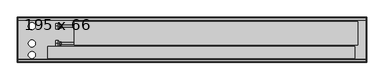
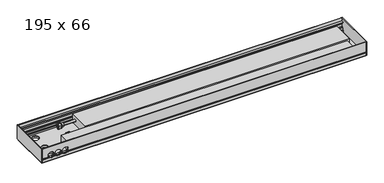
"""IFC4 building model written with IfcOpenShell, lengths in millimetres: proxy geometry, Mohlenhof_Внутрипольный конвектор_QSKM : 195 x 66."""

from ifc_helpers import new_model, si_unit, point, frame, frame_2d, origin, place, context, project, spatial, polyline, circle_curve, ellipse_curve, trimmed, segment, composite_curve, outline, extrude, source, transform, mapped, element, save
from ifc_brep_helpers import plane_surface, cylinder_surface, revolved_surface, advanced_brep


def proxy_195_x_66_d0637520(model_context):
    return source(origin(), model_context, "Body", "SolidModel", [
        extrude(outline(composite_curve([segment(trimmed(circle_curve(frame_2d((0.0, -273.5)), 4.5), [point((-4.5, -273.5))], [point((4.5, -273.5))], False, "CARTESIAN"), True, "CONTINUOUS"), segment(trimmed(circle_curve(frame_2d((0.0, -273.5)), 4.5), [point((4.5, -273.5))], [point((-4.5, -273.5))], False, "CARTESIAN"), True, "CONTINUOUS")], self_intersect=False)), frame((0.0, 0.0, -79.0), z_axis=(0.0, 0.0, 1.0), x_axis=(1.0, 0.0, 0.0)), (0.0, 0.0, 1.0), 7.0),
        extrude(outline(composite_curve([segment(trimmed(circle_curve(frame_2d((0.0, -273.5)), 4.0), [point((-4.0, -273.5))], [point((4.0, -273.5))], False, "CARTESIAN"), True, "CONTINUOUS"), segment(trimmed(circle_curve(frame_2d((0.0, -273.5)), 4.0), [point((4.0, -273.5))], [point((-4.0, -273.5))], False, "CARTESIAN"), True, "CONTINUOUS")], self_intersect=False)), frame((0.0, 0.0, -72.0), z_axis=(0.0, 0.0, 1.0), x_axis=(1.0, 0.0, 0.0)), (0.0, 0.0, 1.0), 1.5),
        extrude(outline(composite_curve([segment(trimmed(circle_curve(frame_2d((0.0, -121.5)), 4.5), [point((-4.5, -121.5))], [point((4.5, -121.5))], False, "CARTESIAN"), True, "CONTINUOUS"), segment(trimmed(circle_curve(frame_2d((0.0, -121.5)), 4.5), [point((4.5, -121.5))], [point((-4.5, -121.5))], False, "CARTESIAN"), True, "CONTINUOUS")], self_intersect=False)), frame((0.0, 0.0, -79.0), z_axis=(0.0, 0.0, 1.0), x_axis=(1.0, 0.0, 0.0)), (0.0, 0.0, 1.0), 7.0),
        extrude(outline(composite_curve([segment(trimmed(circle_curve(frame_2d((0.0, -121.5)), 4.0), [point((-4.0, -121.5))], [point((4.0, -121.5))], False, "CARTESIAN"), True, "CONTINUOUS"), segment(trimmed(circle_curve(frame_2d((0.0, -121.5)), 4.0), [point((4.0, -121.5))], [point((-4.0, -121.5))], False, "CARTESIAN"), True, "CONTINUOUS")], self_intersect=False)), frame((0.0, 0.0, -72.0), z_axis=(0.0, 0.0, 1.0), x_axis=(1.0, 0.0, 0.0)), (0.0, 0.0, 1.0), 1.5),
        advanced_brep(
        [(-574.0, -213.0, -41.0), (-574.0, -201.0, -41.0), (-574.0, -225.0, -41.0), (-561.5, -220.5, -41.0), (-561.5, -205.5, -41.0), (-561.5, -213.0, -41.0), (-569.0, -220.5, -41.0), (-569.0, -205.5, -41.0)],
        [
            (0, 1),
            (1, 2, circle_curve(frame((-574.0, -213.0, -41.0), z_axis=(-1.0, 0.0, 0.0), x_axis=(0.0, 1.0, 0.0)), 12.0)),
            (2, 0),
            (2, 1, circle_curve(frame((-574.0, -213.0, -41.0), z_axis=(-1.0, 0.0, 0.0), x_axis=(0.0, 1.0, 0.0)), 12.0)),
            (3, 4, circle_curve(frame((-561.5, -213.0, -41.0), z_axis=(1.0, 0.0, 0.0), x_axis=(0.0, 1.0, 0.0)), 7.5)),
            (4, 5),
            (5, 3),
            (4, 3, circle_curve(frame((-561.5, -213.0, -41.0), z_axis=(1.0, 0.0, 0.0), x_axis=(0.0, 1.0, 0.0)), 7.5)),
            (6, 7, circle_curve(frame((-569.0, -213.0, -41.0), z_axis=(1.0, 0.0, 0.0), x_axis=(0.0, 1.0, 0.0)), 7.5)),
            (7, 4),
            (3, 6),
            (7, 6, circle_curve(frame((-569.0, -213.0, -41.0), z_axis=(1.0, 0.0, 0.0), x_axis=(0.0, 1.0, 0.0)), 7.5)),
            (1, 7),
            (6, 2),
        ],
        [
            plane_surface(frame((-574.0, -213.0, -41.0), z_axis=(-1.0, 0.0, 0.0), x_axis=(0.0, 1.0, 0.0))),
            plane_surface(frame((-561.5, -213.0, -41.0), z_axis=(1.0, 0.0, 0.0), x_axis=(0.0, 1.0, 0.0))),
            cylinder_surface(frame((-574.0, -213.0, -41.0), z_axis=(-1.0, 0.0, 0.0), x_axis=(0.0, 1.0, 0.0)), 7.5),
            revolved_surface(polyline([(-569.0, -205.5, -41.0), (-574.0, -201.0, -41.0)]), (-574.0, -213.0, -41.0), (-1.0, 0.0, 0.0)),
        ],
        [
            (0, [[1, 2, 3]]),
            (0, [[-3, 4, -1]]),
            (1, [[5, 6, 7]]),
            (1, [[8, -7, -6]]),
            (2, [[9, 10, -5, 11]]),
            (2, [[12, -11, -8, -10]]),
            (3, [[-2, 13, -9, 14]]),
            (3, [[-4, -14, -12, -13]]),
        ],
    ),
        extrude(outline(polyline([(-213.0, -27.1435935), (-201.0, -34.0717968), (-201.0, -47.9282032), (-213.0, -54.8564065), (-225.0, -47.9282032), (-225.0, -34.0717968), (-213.0, -27.1435935)]), holes=[composite_curve([segment(trimmed(circle_curve(frame_2d((-213.0, -41.0)), 8.5), [point((-204.5, -41.0))], [point((-221.5, -41.0))], True, "CARTESIAN"), True, "CONTINUOUS"), segment(trimmed(circle_curve(frame_2d((-213.0, -41.0)), 8.5), [point((-221.5, -41.0))], [point((-204.5, -41.0))], True, "CARTESIAN"), True, "CONTINUOUS")], self_intersect=False)]), frame((-585.0, 0.0, 0.0), z_axis=(1.0, 0.0, 0.0), x_axis=(0.0, 1.0, 0.0)), (0.0, 0.0, 1.0), 11.0),
        advanced_brep(
        [(-574.0, -138.0, -41.0), (-574.0, -126.0, -41.0), (-574.0, -150.0, -41.0), (-561.5, -145.5, -41.0), (-561.5, -130.5, -41.0), (-561.5, -138.0, -41.0), (-569.0, -145.5, -41.0), (-569.0, -130.5, -41.0)],
        [
            (0, 1),
            (1, 2, circle_curve(frame((-574.0, -138.0, -41.0), z_axis=(-1.0, 0.0, 0.0), x_axis=(0.0, 1.0, 0.0)), 12.0)),
            (2, 0),
            (2, 1, circle_curve(frame((-574.0, -138.0, -41.0), z_axis=(-1.0, 0.0, 0.0), x_axis=(0.0, 1.0, 0.0)), 12.0)),
            (3, 4, circle_curve(frame((-561.5, -138.0, -41.0), z_axis=(1.0, 0.0, 0.0), x_axis=(0.0, 1.0, 0.0)), 7.5)),
            (4, 5),
            (5, 3),
            (4, 3, circle_curve(frame((-561.5, -138.0, -41.0), z_axis=(1.0, 0.0, 0.0), x_axis=(0.0, 1.0, 0.0)), 7.5)),
            (6, 7, circle_curve(frame((-569.0, -138.0, -41.0), z_axis=(1.0, 0.0, 0.0), x_axis=(0.0, 1.0, 0.0)), 7.5)),
            (7, 4),
            (3, 6),
            (7, 6, circle_curve(frame((-569.0, -138.0, -41.0), z_axis=(1.0, 0.0, 0.0), x_axis=(0.0, 1.0, 0.0)), 7.5)),
            (1, 7),
            (6, 2),
        ],
        [
            plane_surface(frame((-574.0, -138.0, -41.0), z_axis=(-1.0, 0.0, 0.0), x_axis=(0.0, 1.0, 0.0))),
            plane_surface(frame((-561.5, -138.0, -41.0), z_axis=(1.0, 0.0, 0.0), x_axis=(0.0, 1.0, 0.0))),
            cylinder_surface(frame((-574.0, -138.0, -41.0), z_axis=(-1.0, 0.0, 0.0), x_axis=(0.0, 1.0, 0.0)), 7.5),
            revolved_surface(polyline([(-569.0, -130.5, -41.0), (-574.0, -126.0, -41.0)]), (-574.0, -138.0, -41.0), (-1.0, 0.0, 0.0)),
        ],
        [
            (0, [[1, 2, 3]]),
            (0, [[-3, 4, -1]]),
            (1, [[5, 6, 7]]),
            (1, [[8, -7, -6]]),
            (2, [[9, 10, -5, 11]]),
            (2, [[12, -11, -8, -10]]),
            (3, [[-2, 13, -9, 14]]),
            (3, [[-4, -14, -12, -13]]),
        ],
    ),
        extrude(outline(polyline([(-138.0, -27.1435935), (-126.0, -34.0717968), (-126.0, -47.9282032), (-138.0, -54.8564065), (-150.0, -47.9282032), (-150.0, -34.0717968), (-138.0, -27.1435935)]), holes=[composite_curve([segment(trimmed(circle_curve(frame_2d((-138.0, -41.0)), 8.5), [point((-129.5, -41.0))], [point((-146.5, -41.0))], True, "CARTESIAN"), True, "CONTINUOUS"), segment(trimmed(circle_curve(frame_2d((-138.0, -41.0)), 8.5), [point((-146.5, -41.0))], [point((-129.5, -41.0))], True, "CARTESIAN"), True, "CONTINUOUS")], self_intersect=False)]), frame((-585.0, 0.0, 0.0), z_axis=(1.0, 0.0, 0.0), x_axis=(0.0, 1.0, 0.0)), (0.0, 0.0, 1.0), 11.0),
        extrude(outline(composite_curve([segment(trimmed(circle_curve(frame_2d((-725.0, -273.5)), 4.5), [point((-729.5, -273.5))], [point((-720.5, -273.5))], False, "CARTESIAN"), True, "CONTINUOUS"), segment(trimmed(circle_curve(frame_2d((-725.0, -273.5)), 4.5), [point((-720.5, -273.5))], [point((-729.5, -273.5))], False, "CARTESIAN"), True, "CONTINUOUS")], self_intersect=False)), frame((0.0, 0.0, -79.0), z_axis=(0.0, 0.0, 1.0), x_axis=(1.0, 0.0, 0.0)), (0.0, 0.0, 1.0), 7.0),
        extrude(outline(composite_curve([segment(trimmed(circle_curve(frame_2d((-725.0, -273.5)), 4.0), [point((-729.0, -273.5))], [point((-721.0, -273.5))], False, "CARTESIAN"), True, "CONTINUOUS"), segment(trimmed(circle_curve(frame_2d((-725.0, -273.5)), 4.0), [point((-721.0, -273.5))], [point((-729.0, -273.5))], False, "CARTESIAN"), True, "CONTINUOUS")], self_intersect=False)), frame((0.0, 0.0, -72.0), z_axis=(0.0, 0.0, 1.0), x_axis=(1.0, 0.0, 0.0)), (0.0, 0.0, 1.0), 1.5),
        extrude(outline(composite_curve([segment(trimmed(circle_curve(frame_2d((-725.0, -121.5)), 4.5), [point((-729.5, -121.5))], [point((-720.5, -121.5))], False, "CARTESIAN"), True, "CONTINUOUS"), segment(trimmed(circle_curve(frame_2d((-725.0, -121.5)), 4.5), [point((-720.5, -121.5))], [point((-729.5, -121.5))], False, "CARTESIAN"), True, "CONTINUOUS")], self_intersect=False)), frame((0.0, 0.0, -79.0), z_axis=(0.0, 0.0, 1.0), x_axis=(1.0, 0.0, 0.0)), (0.0, 0.0, 1.0), 7.0),
        extrude(outline(composite_curve([segment(trimmed(circle_curve(frame_2d((-725.0, -121.5)), 4.0), [point((-729.0, -121.5))], [point((-721.0, -121.5))], False, "CARTESIAN"), True, "CONTINUOUS"), segment(trimmed(circle_curve(frame_2d((-725.0, -121.5)), 4.0), [point((-721.0, -121.5))], [point((-729.0, -121.5))], False, "CARTESIAN"), True, "CONTINUOUS")], self_intersect=False)), frame((0.0, 0.0, -72.0), z_axis=(0.0, 0.0, 1.0), x_axis=(1.0, 0.0, 0.0)), (0.0, 0.0, 1.0), 1.5),
        extrude(outline(composite_curve([segment(trimmed(circle_curve(frame_2d((725.0, -273.5)), 4.5), [point((720.5, -273.5))], [point((729.5, -273.5))], False, "CARTESIAN"), True, "CONTINUOUS"), segment(trimmed(circle_curve(frame_2d((725.0, -273.5)), 4.5), [point((729.5, -273.5))], [point((720.5, -273.5))], False, "CARTESIAN"), True, "CONTINUOUS")], self_intersect=False)), frame((0.0, 0.0, -79.0), z_axis=(0.0, 0.0, 1.0), x_axis=(1.0, 0.0, 0.0)), (0.0, 0.0, 1.0), 7.0),
        extrude(outline(composite_curve([segment(trimmed(circle_curve(frame_2d((725.0, -273.5)), 4.0), [point((721.0, -273.5))], [point((729.0, -273.5))], False, "CARTESIAN"), True, "CONTINUOUS"), segment(trimmed(circle_curve(frame_2d((725.0, -273.5)), 4.0), [point((729.0, -273.5))], [point((721.0, -273.5))], False, "CARTESIAN"), True, "CONTINUOUS")], self_intersect=False)), frame((0.0, 0.0, -72.0), z_axis=(0.0, 0.0, 1.0), x_axis=(1.0, 0.0, 0.0)), (0.0, 0.0, 1.0), 1.5),
        extrude(outline(composite_curve([segment(trimmed(circle_curve(frame_2d((725.0, -121.5)), 4.5), [point((720.5, -121.5))], [point((729.5, -121.5))], False, "CARTESIAN"), True, "CONTINUOUS"), segment(trimmed(circle_curve(frame_2d((725.0, -121.5)), 4.5), [point((729.5, -121.5))], [point((720.5, -121.5))], False, "CARTESIAN"), True, "CONTINUOUS")], self_intersect=False)), frame((0.0, 0.0, -79.0), z_axis=(0.0, 0.0, 1.0), x_axis=(1.0, 0.0, 0.0)), (0.0, 0.0, 1.0), 7.0),
        extrude(outline(composite_curve([segment(trimmed(circle_curve(frame_2d((725.0, -121.5)), 4.0), [point((721.0, -121.5))], [point((729.0, -121.5))], False, "CARTESIAN"), True, "CONTINUOUS"), segment(trimmed(circle_curve(frame_2d((725.0, -121.5)), 4.0), [point((729.0, -121.5))], [point((721.0, -121.5))], False, "CARTESIAN"), True, "CONTINUOUS")], self_intersect=False)), frame((0.0, 0.0, -72.0), z_axis=(0.0, 0.0, 1.0), x_axis=(1.0, 0.0, 0.0)), (0.0, 0.0, 1.0), 1.5),
        extrude(outline(polyline([(700.0, -225.87), (700.0, -277.18), (-620.0, -277.18), (-620.0, -225.87), (700.0, -225.87)])), frame((0.0, 0.0, -62.5), z_axis=(0.0, 0.0, 1.0), x_axis=(1.0, 0.0, 0.0)), (0.0, 0.0, 1.0), 43.62),
        extrude(outline(composite_curve([segment(trimmed(circle_curve(frame_2d((-213.0, -41.0)), 5.0), [point((-218.0, -41.0))], [point((-208.0, -41.0))], False, "CARTESIAN"), True, "CONTINUOUS"), segment(trimmed(circle_curve(frame_2d((-213.0, -41.0)), 5.0), [point((-208.0, -41.0))], [point((-218.0, -41.0))], False, "CARTESIAN"), True, "CONTINUOUS")], self_intersect=False)), frame((-585.0, 0.0, 0.0), z_axis=(1.0, 0.0, 0.0), x_axis=(0.0, 1.0, 0.0)), (0.0, 0.0, 1.0), 80.0),
        extrude(outline(composite_curve([segment(trimmed(circle_curve(frame_2d((-138.0, -41.0)), 5.0), [point((-143.0, -41.0))], [point((-133.0, -41.0))], False, "CARTESIAN"), True, "CONTINUOUS"), segment(trimmed(circle_curve(frame_2d((-138.0, -41.0)), 5.0), [point((-133.0, -41.0))], [point((-143.0, -41.0))], False, "CARTESIAN"), True, "CONTINUOUS")], self_intersect=False)), frame((-585.0, 0.0, 0.0), z_axis=(1.0, 0.0, 0.0), x_axis=(0.0, 1.0, 0.0)), (0.0, 0.0, 1.0), 80.0),
        advanced_brep(
        [(748.0, -295.0, -48.5473602), (748.0, -293.5, -49.2468216), (748.0, -292.5, -49.2468216), (748.0, -292.5, -46.0008038), (748.0, -290.0, -46.0008038), (748.0, -290.0, -56.5008038), (748.0, -292.5, -56.5008038), (748.0, -292.5, -53.2468216), (748.0, -293.5, -53.2468216), (748.0, -295.0, -53.9462831), (748.0, -295.0, -66.5), (748.0, -291.0, -66.5), (748.0, -291.0, -65.2), (748.0, -293.0, -65.2), (748.0, -293.0, -62.5), (748.0, -282.0, -62.5), (748.0, -282.0, -54.9172677), (748.0, -283.4172677, -53.5), (748.0, -287.0, -53.5), (748.0, -287.0, -45.91), (748.0, -289.0, -43.91), (748.0, -289.0, -39.5), (748.0, -290.0, -39.5), (748.0, -290.0, -43.5), (748.0, -292.4956439, -43.5), (748.0, -292.4956439, -23.0), (748.0, -290.0, -23.0), (748.0, -290.0, -27.0), (748.0, -289.0, -27.0), (748.0, -289.0, -17.0), (748.0, -283.3956439, -17.0), (748.0, -283.3956439, -15.0), (748.0, -293.4, -15.0), (748.0, -293.4, 0.0), (748.0, -295.0, 0.0), (-748.0, -295.0, -48.5473602), (-748.0, -295.0, 0.0), (-748.0, -293.4, 0.0), (-748.0, -293.4, -15.0), (-748.0, -283.3956439, -15.0), (-748.0, -283.3956439, -17.0), (-748.0, -289.0, -17.0), (-748.0, -289.0, -27.0), (-748.0, -290.0, -27.0), (-748.0, -290.0, -23.0), (-748.0, -292.4956439, -23.0), (-748.0, -292.4956439, -43.5), (-748.0, -290.0, -43.5), (-748.0, -290.0, -39.5), (-748.0, -289.0, -39.5), (-748.0, -289.0, -43.91), (-748.0, -287.0, -45.91), (-748.0, -287.0, -53.5), (-748.0, -283.4172677, -53.5), (-748.0, -282.0, -54.9172677), (-748.0, -282.0, -62.5), (-748.0, -293.0, -62.5), (-748.0, -293.0, -65.2), (-748.0, -291.0, -65.2), (-748.0, -291.0, -66.5), (-748.0, -295.0, -66.5), (-748.0, -295.0, -53.9462831), (-748.0, -293.5, -53.2468216), (-748.0, -292.5, -53.2468216), (-748.0, -292.5, -56.5008038), (-748.0, -290.0, -56.5008038), (-748.0, -290.0, -46.0008038), (-748.0, -292.5, -46.0008038), (-748.0, -292.5, -49.2468216), (-748.0, -293.5, -49.2468216), (-628.7585985, -295.0, -48.5473602), (-629.155283, -293.5, -49.2468216), (-720.844717, -293.5, -49.2468216), (-721.2414015, -295.0, -48.5473602), (-688.2414015, -295.0, -48.5473602), (-694.7585985, -295.0, -48.5473602), (-695.155283, -293.5, -49.2468216), (-687.844717, -293.5, -49.2468216), (-655.2414015, -295.0, -48.5473602), (-661.7585985, -295.0, -48.5473602), (-662.155283, -293.5, -49.2468216), (-654.844717, -293.5, -49.2468216), (-629.155283, -292.5, -49.2468216), (-720.844717, -292.5, -49.2468216), (-695.155283, -292.5, -49.2468216), (-687.844717, -292.5, -49.2468216), (-662.155283, -292.5, -49.2468216), (-654.844717, -292.5, -49.2468216), (-627.6911648, -292.5, -46.0008038), (-722.3088352, -292.5, -46.0008038), (-693.6911648, -292.5, -46.0008038), (-689.3088352, -292.5, -46.0008038), (-660.6911648, -292.5, -46.0008038), (-656.3088352, -292.5, -46.0008038), (-627.6911648, -290.0, -46.0008038), (-722.3088352, -290.0, -46.0008038), (-693.6911648, -290.0, -46.0008038), (-689.3088352, -290.0, -46.0008038), (-660.6911648, -290.0, -46.0008038), (-656.3088352, -290.0, -46.0008038), (-717.328032, -292.5, -53.2468216), (-698.671968, -292.5, -53.2468216), (-684.328032, -292.5, -53.2468216), (-665.671968, -292.5, -53.2468216), (-651.328032, -292.5, -53.2468216), (-632.671968, -292.5, -53.2468216), (-632.671968, -293.5, -53.2468216), (-717.328032, -293.5, -53.2468216), (-698.671968, -293.5, -53.2468216), (-684.328032, -293.5, -53.2468216), (-665.671968, -293.5, -53.2468216), (-651.328032, -293.5, -53.2468216), (-633.6280208, -295.0, -53.9462831), (-716.3719792, -295.0, -53.9462831), (-699.6280208, -295.0, -53.9462831), (-683.3719792, -295.0, -53.9462831), (-666.6280208, -295.0, -53.9462831), (-650.3719792, -295.0, -53.9462831), (-714.7064841, -282.0, -54.9172677), (-701.2935159, -282.0, -54.9172677), (-681.7064841, -282.0, -54.9172677), (-668.2935159, -282.0, -54.9172677), (-648.7064841, -282.0, -54.9172677), (-635.2935159, -282.0, -54.9172677), (-633.0, -283.4172677, -53.5), (-717.0, -283.4172677, -53.5), (-699.0, -283.4172677, -53.5), (-684.0, -283.4172677, -53.5), (-666.0, -283.4172677, -53.5), (-651.0, -283.4172677, -53.5), (-633.0, -287.0, -53.5), (-717.0, -287.0, -53.5), (-699.0, -287.0, -53.5), (-684.0, -287.0, -53.5), (-666.0, -287.0, -53.5), (-651.0, -287.0, -53.5), (-627.6629187, -287.0, -45.91), (-722.3370813, -287.0, -45.91), (-693.6629187, -287.0, -45.91), (-689.3370813, -287.0, -45.91), (-660.6629187, -287.0, -45.91), (-656.3370813, -287.0, -45.91), (-627.1948691, -289.0, -43.91), (-722.8051309, -289.0, -43.91), (-693.1948691, -289.0, -43.91), (-689.8051309, -289.0, -43.91), (-660.1948691, -289.0, -43.91), (-656.8051309, -289.0, -43.91), (-627.0, -289.0, -41.5), (-627.1339313, -289.0, -39.5), (-722.8660687, -289.0, -39.5), (-723.0, -289.0, -41.5), (-693.0, -289.0, -41.5), (-693.1339313, -289.0, -39.5), (-689.8660687, -289.0, -39.5), (-690.0, -289.0, -41.5), (-660.0, -289.0, -41.5), (-660.1339313, -289.0, -39.5), (-656.8660687, -289.0, -39.5), (-657.0, -289.0, -41.5), (-627.1339313, -290.0, -39.5), (-722.8660687, -290.0, -39.5), (-693.1339313, -290.0, -39.5), (-689.8660687, -290.0, -39.5), (-660.1339313, -290.0, -39.5), (-656.8660687, -290.0, -39.5), (-627.0, -290.0, -41.5), (-627.1339313, -290.0, -43.5), (-722.8660687, -290.0, -43.5), (-723.0, -290.0, -41.5), (-693.0, -290.0, -41.5), (-693.1339313, -290.0, -43.5), (-689.8660687, -290.0, -43.5), (-690.0, -290.0, -41.5), (-660.0, -290.0, -41.5), (-660.1339313, -290.0, -43.5), (-656.8660687, -290.0, -43.5), (-657.0, -290.0, -41.5), (-627.1339313, -292.4956439, -43.5), (-722.8660687, -292.4956439, -43.5), (-693.1339313, -292.4956439, -43.5), (-689.8660687, -292.4956439, -43.5), (-660.1339313, -292.4956439, -43.5), (-656.8660687, -292.4956439, -43.5), (-627.0, -292.4956439, -41.5), (-657.0, -292.4956439, -41.5), (-660.0, -292.4956439, -41.5), (-690.0, -292.4956439, -41.5), (-693.0, -292.4956439, -41.5), (-723.0, -292.4956439, -41.5), (-711.8405729, -290.0, -27.0), (-704.1594271, -290.0, -27.0), (-678.8405729, -290.0, -27.0), (-671.1594271, -290.0, -27.0), (-645.8405729, -290.0, -27.0), (-638.1594271, -290.0, -27.0), (-638.1594271, -289.0, -27.0), (-711.8405729, -289.0, -27.0), (-704.1594271, -289.0, -27.0), (-678.8405729, -289.0, -27.0), (-671.1594271, -289.0, -27.0), (-645.8405729, -289.0, -27.0), (-723.0, -295.0, -41.5), (-693.0, -295.0, -41.5), (-690.0, -295.0, -41.5), (-660.0, -295.0, -41.5), (-657.0, -295.0, -41.5), (-627.0, -295.0, -41.5)],
        [
            (0, 1),
            (1, 2),
            (2, 3),
            (3, 4),
            (4, 5),
            (5, 6),
            (6, 7),
            (7, 8),
            (8, 9),
            (9, 10),
            (10, 11),
            (11, 12),
            (12, 13),
            (13, 14),
            (14, 15),
            (15, 16),
            (16, 17),
            (17, 18),
            (18, 19),
            (19, 20),
            (20, 21),
            (21, 22),
            (22, 23),
            (23, 24),
            (24, 25),
            (25, 26),
            (26, 27),
            (27, 28),
            (28, 29),
            (29, 30),
            (30, 31),
            (31, 32),
            (32, 33),
            (33, 34),
            (34, 0),
            (35, 36),
            (36, 37),
            (37, 38),
            (38, 39),
            (39, 40),
            (40, 41),
            (41, 42),
            (42, 43),
            (43, 44),
            (44, 45),
            (45, 46),
            (46, 47),
            (47, 48),
            (48, 49),
            (49, 50),
            (50, 51),
            (51, 52),
            (52, 53),
            (53, 54),
            (54, 55),
            (55, 56),
            (56, 57),
            (57, 58),
            (58, 59),
            (59, 60),
            (60, 61),
            (61, 62),
            (62, 63),
            (63, 64),
            (64, 65),
            (65, 66),
            (66, 67),
            (67, 68),
            (68, 69),
            (69, 35),
            (0, 70),
            (70, 71, ellipse_curve(frame((-642.0, -310.1131126, -41.5), z_axis=(0.0, 0.42261826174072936, 0.9063077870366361), x_axis=(0.0, -0.906307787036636, 0.4226182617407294)), 35.4930237, 15.0)),
            (71, 1),
            (69, 72),
            (72, 73, ellipse_curve(frame((-708.0, -310.1131126, -41.5), z_axis=(0.0, 0.42261826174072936, 0.9063077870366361), x_axis=(0.0, -0.906307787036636, 0.4226182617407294)), 35.4930237, 15.0)),
            (73, 35),
            (74, 75),
            (75, 76, ellipse_curve(frame((-708.0, -310.1131126, -41.5), z_axis=(0.0, 0.42261826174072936, 0.9063077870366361), x_axis=(0.0, -0.906307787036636, 0.4226182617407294)), 35.4930237, 15.0)),
            (76, 77),
            (77, 74, ellipse_curve(frame((-675.0, -310.1131126, -41.5), z_axis=(0.0, 0.42261826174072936, 0.9063077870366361), x_axis=(0.0, -0.906307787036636, 0.4226182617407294)), 35.4930237, 15.0)),
            (78, 79),
            (79, 80, ellipse_curve(frame((-675.0, -310.1131126, -41.5), z_axis=(0.0, 0.42261826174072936, 0.9063077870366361), x_axis=(0.0, -0.906307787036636, 0.4226182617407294)), 35.4930237, 15.0)),
            (80, 81),
            (81, 78, ellipse_curve(frame((-642.0, -310.1131126, -41.5), z_axis=(0.0, 0.42261826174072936, 0.9063077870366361), x_axis=(0.0, -0.906307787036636, 0.4226182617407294)), 35.4930237, 15.0)),
            (71, 82),
            (82, 2),
            (68, 83),
            (83, 72),
            (76, 84),
            (84, 85),
            (85, 77),
            (80, 86),
            (86, 87),
            (87, 81),
            (82, 88, circle_curve(frame((-642.0, -292.5, -41.5), z_axis=(0.0, -1.0, 0.0), x_axis=(1.0, 0.0, 0.0)), 15.0)),
            (88, 3),
            (67, 89),
            (89, 83, circle_curve(frame((-708.0, -292.5, -41.5), z_axis=(0.0, -1.0, 0.0), x_axis=(1.0, 0.0, 0.0)), 15.0)),
            (84, 90, circle_curve(frame((-708.0, -292.5, -41.5), z_axis=(0.0, -1.0, 0.0), x_axis=(1.0, 0.0, 0.0)), 15.0)),
            (90, 91),
            (91, 85, circle_curve(frame((-675.0, -292.5, -41.5), z_axis=(0.0, -1.0, 0.0), x_axis=(1.0, 0.0, 0.0)), 15.0)),
            (86, 92, circle_curve(frame((-675.0, -292.5, -41.5), z_axis=(0.0, -1.0, 0.0), x_axis=(1.0, 0.0, 0.0)), 15.0)),
            (92, 93),
            (93, 87, circle_curve(frame((-642.0, -292.5, -41.5), z_axis=(0.0, -1.0, 0.0), x_axis=(1.0, 0.0, 0.0)), 15.0)),
            (88, 94),
            (94, 4),
            (66, 95),
            (95, 89),
            (90, 96),
            (96, 97),
            (97, 91),
            (92, 98),
            (98, 99),
            (99, 93),
            (94, 99, circle_curve(frame((-642.0, -290.0, -41.5), z_axis=(0.0, 1.0, 0.0), x_axis=(1.0, 0.0, 0.0)), 15.0)),
            (98, 97, circle_curve(frame((-675.0, -290.0, -41.5), z_axis=(0.0, 1.0, 0.0), x_axis=(1.0, 0.0, 0.0)), 15.0)),
            (96, 95, circle_curve(frame((-708.0, -290.0, -41.5), z_axis=(0.0, 1.0, 0.0), x_axis=(1.0, 0.0, 0.0)), 15.0)),
            (65, 5),
            (64, 6),
            (63, 100),
            (100, 101, circle_curve(frame((-708.0, -292.5, -41.5), z_axis=(0.0, -1.0, 0.0), x_axis=(1.0, 0.0, 0.0)), 15.0)),
            (101, 102),
            (102, 103, circle_curve(frame((-675.0, -292.5, -41.5), z_axis=(0.0, -1.0, 0.0), x_axis=(1.0, 0.0, 0.0)), 15.0)),
            (103, 104),
            (104, 105, circle_curve(frame((-642.0, -292.5, -41.5), z_axis=(0.0, -1.0, 0.0), x_axis=(1.0, 0.0, 0.0)), 15.0)),
            (105, 7),
            (105, 106),
            (106, 8),
            (62, 107),
            (107, 100),
            (101, 108),
            (108, 109),
            (109, 102),
            (103, 110),
            (110, 111),
            (111, 104),
            (106, 112, ellipse_curve(frame((-642.0, -268.3088597, -41.5), z_axis=(0.0, 0.4226182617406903, -0.9063077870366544), x_axis=(0.0, -0.9063077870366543, -0.42261826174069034)), 35.4930237, 15.0)),
            (112, 9),
            (61, 113),
            (113, 107, ellipse_curve(frame((-708.0, -268.3088597, -41.5), z_axis=(0.0, 0.4226182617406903, -0.9063077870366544), x_axis=(0.0, -0.9063077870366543, -0.42261826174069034)), 35.4930237, 15.0)),
            (108, 114, ellipse_curve(frame((-708.0, -268.3088597, -41.5), z_axis=(0.0, 0.4226182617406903, -0.9063077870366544), x_axis=(0.0, -0.9063077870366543, -0.42261826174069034)), 35.4930237, 15.0)),
            (114, 115),
            (115, 109, ellipse_curve(frame((-675.0, -268.3088597, -41.5), z_axis=(0.0, 0.4226182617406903, -0.9063077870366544), x_axis=(0.0, -0.9063077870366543, -0.42261826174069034)), 35.4930237, 15.0)),
            (110, 116, ellipse_curve(frame((-675.0, -268.3088597, -41.5), z_axis=(0.0, 0.4226182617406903, -0.9063077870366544), x_axis=(0.0, -0.9063077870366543, -0.42261826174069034)), 35.4930237, 15.0)),
            (116, 117),
            (117, 111, ellipse_curve(frame((-642.0, -268.3088597, -41.5), z_axis=(0.0, 0.4226182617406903, -0.9063077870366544), x_axis=(0.0, -0.9063077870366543, -0.42261826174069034)), 35.4930237, 15.0)),
            (112, 117, circle_curve(frame((-642.0, -295.0, -41.5), z_axis=(0.0, 1.0, 0.0), x_axis=(1.0, 0.0, 0.0)), 15.0)),
            (116, 115, circle_curve(frame((-675.0, -295.0, -41.5), z_axis=(0.0, 1.0, 0.0), x_axis=(1.0, 0.0, 0.0)), 15.0)),
            (114, 113, circle_curve(frame((-708.0, -295.0, -41.5), z_axis=(0.0, 1.0, 0.0), x_axis=(1.0, 0.0, 0.0)), 15.0)),
            (60, 10),
            (59, 11),
            (58, 12),
            (57, 13),
            (56, 14),
            (55, 15),
            (54, 118),
            (118, 119, circle_curve(frame((-708.0, -282.0, -41.5), z_axis=(0.0, -1.0, 0.0), x_axis=(1.0, 0.0, 0.0)), 15.0)),
            (119, 120),
            (120, 121, circle_curve(frame((-675.0, -282.0, -41.5), z_axis=(0.0, -1.0, 0.0), x_axis=(1.0, 0.0, 0.0)), 15.0)),
            (121, 122),
            (122, 123, circle_curve(frame((-642.0, -282.0, -41.5), z_axis=(0.0, -1.0, 0.0), x_axis=(1.0, 0.0, 0.0)), 15.0)),
            (123, 16),
            (123, 124, ellipse_curve(frame((-642.0, -295.4172677, -41.5), z_axis=(0.0, -0.7071067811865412, -0.7071067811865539), x_axis=(0.0, -0.7071067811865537, 0.7071067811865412)), 21.2132034, 15.0)),
            (124, 17),
            (53, 125),
            (125, 118, ellipse_curve(frame((-708.0, -295.4172677, -41.5), z_axis=(0.0, -0.7071067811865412, -0.7071067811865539), x_axis=(0.0, -0.7071067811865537, 0.7071067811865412)), 21.2132034, 15.0)),
            (119, 126, ellipse_curve(frame((-708.0, -295.4172677, -41.5), z_axis=(0.0, -0.7071067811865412, -0.7071067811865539), x_axis=(0.0, -0.7071067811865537, 0.7071067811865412)), 21.2132034, 15.0)),
            (126, 127),
            (127, 120, ellipse_curve(frame((-675.0, -295.4172677, -41.5), z_axis=(0.0, -0.7071067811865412, -0.7071067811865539), x_axis=(0.0, -0.7071067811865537, 0.7071067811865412)), 21.2132034, 15.0)),
            (121, 128, ellipse_curve(frame((-675.0, -295.4172677, -41.5), z_axis=(0.0, -0.7071067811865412, -0.7071067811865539), x_axis=(0.0, -0.7071067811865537, 0.7071067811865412)), 21.2132034, 15.0)),
            (128, 129),
            (129, 122, ellipse_curve(frame((-642.0, -295.4172677, -41.5), z_axis=(0.0, -0.7071067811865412, -0.7071067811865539), x_axis=(0.0, -0.7071067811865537, 0.7071067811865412)), 21.2132034, 15.0)),
            (124, 130),
            (130, 18),
            (52, 131),
            (131, 125),
            (126, 132),
            (132, 133),
            (133, 127),
            (128, 134),
            (134, 135),
            (135, 129),
            (130, 136, circle_curve(frame((-642.0, -287.0, -41.5), z_axis=(0.0, -1.0, 0.0), x_axis=(1.0, 0.0, 0.0)), 15.0)),
            (136, 19),
            (51, 137),
            (137, 131, circle_curve(frame((-708.0, -287.0, -41.5), z_axis=(0.0, -1.0, 0.0), x_axis=(1.0, 0.0, 0.0)), 15.0)),
            (132, 138, circle_curve(frame((-708.0, -287.0, -41.5), z_axis=(0.0, -1.0, 0.0), x_axis=(1.0, 0.0, 0.0)), 15.0)),
            (138, 139),
            (139, 133, circle_curve(frame((-675.0, -287.0, -41.5), z_axis=(0.0, -1.0, 0.0), x_axis=(1.0, 0.0, 0.0)), 15.0)),
            (134, 140, circle_curve(frame((-675.0, -287.0, -41.5), z_axis=(0.0, -1.0, 0.0), x_axis=(1.0, 0.0, 0.0)), 15.0)),
            (140, 141),
            (141, 135, circle_curve(frame((-642.0, -287.0, -41.5), z_axis=(0.0, -1.0, 0.0), x_axis=(1.0, 0.0, 0.0)), 15.0)),
            (136, 142, ellipse_curve(frame((-642.0, -291.41, -41.5), z_axis=(0.0, -0.7071067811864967, -0.7071067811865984), x_axis=(0.0, -0.7071067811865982, 0.7071067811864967)), 21.2132034, 15.0)),
            (142, 20),
            (50, 143),
            (143, 137, ellipse_curve(frame((-708.0, -291.41, -41.5), z_axis=(0.0, -0.7071067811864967, -0.7071067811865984), x_axis=(0.0, -0.7071067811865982, 0.7071067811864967)), 21.2132034, 15.0)),
            (138, 144, ellipse_curve(frame((-708.0, -291.41, -41.5), z_axis=(0.0, -0.7071067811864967, -0.7071067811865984), x_axis=(0.0, -0.7071067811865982, 0.7071067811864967)), 21.2132034, 15.0)),
            (144, 145),
            (145, 139, ellipse_curve(frame((-675.0, -291.41, -41.5), z_axis=(0.0, -0.7071067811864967, -0.7071067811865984), x_axis=(0.0, -0.7071067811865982, 0.7071067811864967)), 21.2132034, 15.0)),
            (140, 146, ellipse_curve(frame((-675.0, -291.41, -41.5), z_axis=(0.0, -0.7071067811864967, -0.7071067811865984), x_axis=(0.0, -0.7071067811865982, 0.7071067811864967)), 21.2132034, 15.0)),
            (146, 147),
            (147, 141, ellipse_curve(frame((-642.0, -291.41, -41.5), z_axis=(0.0, -0.7071067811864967, -0.7071067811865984), x_axis=(0.0, -0.7071067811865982, 0.7071067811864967)), 21.2132034, 15.0)),
            (142, 148, circle_curve(frame((-642.0, -289.0, -41.5), z_axis=(0.0, -1.0, 0.0), x_axis=(1.0, 0.0, 0.0)), 15.0)),
            (148, 149, circle_curve(frame((-642.0, -289.0, -41.5), z_axis=(0.0, -1.0, 0.0), x_axis=(1.0, 0.0, 0.0)), 15.0)),
            (149, 21),
            (49, 150),
            (150, 151, circle_curve(frame((-708.0, -289.0, -41.5), z_axis=(0.0, -1.0, 0.0), x_axis=(1.0, 0.0, 0.0)), 15.0)),
            (151, 143, circle_curve(frame((-708.0, -289.0, -41.5), z_axis=(0.0, -1.0, 0.0), x_axis=(1.0, 0.0, 0.0)), 15.0)),
            (144, 152, circle_curve(frame((-708.0, -289.0, -41.5), z_axis=(0.0, -1.0, 0.0), x_axis=(1.0, 0.0, 0.0)), 15.0)),
            (152, 153, circle_curve(frame((-708.0, -289.0, -41.5), z_axis=(0.0, -1.0, 0.0), x_axis=(1.0, 0.0, 0.0)), 15.0)),
            (153, 154),
            (154, 155, circle_curve(frame((-675.0, -289.0, -41.5), z_axis=(0.0, -1.0, 0.0), x_axis=(1.0, 0.0, 0.0)), 15.0)),
            (155, 145, circle_curve(frame((-675.0, -289.0, -41.5), z_axis=(0.0, -1.0, 0.0), x_axis=(1.0, 0.0, 0.0)), 15.0)),
            (146, 156, circle_curve(frame((-675.0, -289.0, -41.5), z_axis=(0.0, -1.0, 0.0), x_axis=(1.0, 0.0, 0.0)), 15.0)),
            (156, 157, circle_curve(frame((-675.0, -289.0, -41.5), z_axis=(0.0, -1.0, 0.0), x_axis=(1.0, 0.0, 0.0)), 15.0)),
            (157, 158),
            (158, 159, circle_curve(frame((-642.0, -289.0, -41.5), z_axis=(0.0, -1.0, 0.0), x_axis=(1.0, 0.0, 0.0)), 15.0)),
            (159, 147, circle_curve(frame((-642.0, -289.0, -41.5), z_axis=(0.0, -1.0, 0.0), x_axis=(1.0, 0.0, 0.0)), 15.0)),
            (149, 160),
            (160, 22),
            (48, 161),
            (161, 150),
            (153, 162),
            (162, 163),
            (163, 154),
            (157, 164),
            (164, 165),
            (165, 158),
            (160, 166, circle_curve(frame((-642.0, -290.0, -41.5), z_axis=(0.0, 1.0, 0.0), x_axis=(1.0, 0.0, 0.0)), 15.0)),
            (166, 167, circle_curve(frame((-642.0, -290.0, -41.5), z_axis=(0.0, 1.0, 0.0), x_axis=(1.0, 0.0, 0.0)), 15.0)),
            (167, 23),
            (47, 168),
            (168, 169, circle_curve(frame((-708.0, -290.0, -41.5), z_axis=(0.0, 1.0, 0.0), x_axis=(1.0, 0.0, 0.0)), 15.0)),
            (169, 161, circle_curve(frame((-708.0, -290.0, -41.5), z_axis=(0.0, 1.0, 0.0), x_axis=(1.0, 0.0, 0.0)), 15.0)),
            (162, 170, circle_curve(frame((-708.0, -290.0, -41.5), z_axis=(0.0, 1.0, 0.0), x_axis=(1.0, 0.0, 0.0)), 15.0)),
            (170, 171, circle_curve(frame((-708.0, -290.0, -41.5), z_axis=(0.0, 1.0, 0.0), x_axis=(1.0, 0.0, 0.0)), 15.0)),
            (171, 172),
            (172, 173, circle_curve(frame((-675.0, -290.0, -41.5), z_axis=(0.0, 1.0, 0.0), x_axis=(1.0, 0.0, 0.0)), 15.0)),
            (173, 163, circle_curve(frame((-675.0, -290.0, -41.5), z_axis=(0.0, 1.0, 0.0), x_axis=(1.0, 0.0, 0.0)), 15.0)),
            (164, 174, circle_curve(frame((-675.0, -290.0, -41.5), z_axis=(0.0, 1.0, 0.0), x_axis=(1.0, 0.0, 0.0)), 15.0)),
            (174, 175, circle_curve(frame((-675.0, -290.0, -41.5), z_axis=(0.0, 1.0, 0.0), x_axis=(1.0, 0.0, 0.0)), 15.0)),
            (175, 176),
            (176, 177, circle_curve(frame((-642.0, -290.0, -41.5), z_axis=(0.0, 1.0, 0.0), x_axis=(1.0, 0.0, 0.0)), 15.0)),
            (177, 165, circle_curve(frame((-642.0, -290.0, -41.5), z_axis=(0.0, 1.0, 0.0), x_axis=(1.0, 0.0, 0.0)), 15.0)),
            (167, 178),
            (178, 24),
            (46, 179),
            (179, 168),
            (171, 180),
            (180, 181),
            (181, 172),
            (175, 182),
            (182, 183),
            (183, 176),
            (178, 184, circle_curve(frame((-642.0, -292.4956439, -41.5), z_axis=(0.0, -1.0, 0.0), x_axis=(1.0, 0.0, 0.0)), 15.0)),
            (184, 185, circle_curve(frame((-642.0, -292.4956439, -41.5), z_axis=(0.0, -1.0, 0.0), x_axis=(1.0, 0.0, 0.0)), 15.0)),
            (185, 183, circle_curve(frame((-642.0, -292.4956439, -41.5), z_axis=(0.0, -1.0, 0.0), x_axis=(1.0, 0.0, 0.0)), 15.0)),
            (182, 186, circle_curve(frame((-675.0, -292.4956439, -41.5), z_axis=(0.0, -1.0, 0.0), x_axis=(1.0, 0.0, 0.0)), 15.0)),
            (186, 187, circle_curve(frame((-675.0, -292.4956439, -41.5), z_axis=(0.0, -1.0, 0.0), x_axis=(1.0, 0.0, 0.0)), 15.0)),
            (187, 181, circle_curve(frame((-675.0, -292.4956439, -41.5), z_axis=(0.0, -1.0, 0.0), x_axis=(1.0, 0.0, 0.0)), 15.0)),
            (180, 188, circle_curve(frame((-708.0, -292.4956439, -41.5), z_axis=(0.0, -1.0, 0.0), x_axis=(1.0, 0.0, 0.0)), 15.0)),
            (188, 189, circle_curve(frame((-708.0, -292.4956439, -41.5), z_axis=(0.0, -1.0, 0.0), x_axis=(1.0, 0.0, 0.0)), 15.0)),
            (189, 179, circle_curve(frame((-708.0, -292.4956439, -41.5), z_axis=(0.0, -1.0, 0.0), x_axis=(1.0, 0.0, 0.0)), 15.0)),
            (45, 25),
            (44, 26),
            (43, 190),
            (190, 191, circle_curve(frame((-708.0, -290.0, -41.5), z_axis=(0.0, 1.0, 0.0), x_axis=(1.0, 0.0, 0.0)), 15.0)),
            (191, 192),
            (192, 193, circle_curve(frame((-675.0, -290.0, -41.5), z_axis=(0.0, 1.0, 0.0), x_axis=(1.0, 0.0, 0.0)), 15.0)),
            (193, 194),
            (194, 195, circle_curve(frame((-642.0, -290.0, -41.5), z_axis=(0.0, 1.0, 0.0), x_axis=(1.0, 0.0, 0.0)), 15.0)),
            (195, 27),
            (195, 196),
            (196, 28),
            (42, 197),
            (197, 190),
            (191, 198),
            (198, 199),
            (199, 192),
            (193, 200),
            (200, 201),
            (201, 194),
            (196, 201, circle_curve(frame((-642.0, -289.0, -41.5), z_axis=(0.0, -1.0, 0.0), x_axis=(1.0, 0.0, 0.0)), 15.0)),
            (200, 199, circle_curve(frame((-675.0, -289.0, -41.5), z_axis=(0.0, -1.0, 0.0), x_axis=(1.0, 0.0, 0.0)), 15.0)),
            (198, 197, circle_curve(frame((-708.0, -289.0, -41.5), z_axis=(0.0, -1.0, 0.0), x_axis=(1.0, 0.0, 0.0)), 15.0)),
            (41, 29),
            (40, 30),
            (39, 31),
            (38, 32),
            (37, 33),
            (36, 34),
            (73, 202, circle_curve(frame((-708.0, -295.0, -41.5), z_axis=(0.0, 1.0, 0.0), x_axis=(1.0, 0.0, 0.0)), 15.0)),
            (202, 203, circle_curve(frame((-708.0, -295.0, -41.5), z_axis=(0.0, 1.0, 0.0), x_axis=(1.0, 0.0, 0.0)), 15.0)),
            (203, 75, circle_curve(frame((-708.0, -295.0, -41.5), z_axis=(0.0, 1.0, 0.0), x_axis=(1.0, 0.0, 0.0)), 15.0)),
            (74, 204, circle_curve(frame((-675.0, -295.0, -41.5), z_axis=(0.0, 1.0, 0.0), x_axis=(1.0, 0.0, 0.0)), 15.0)),
            (204, 205, circle_curve(frame((-675.0, -295.0, -41.5), z_axis=(0.0, 1.0, 0.0), x_axis=(1.0, 0.0, 0.0)), 15.0)),
            (205, 79, circle_curve(frame((-675.0, -295.0, -41.5), z_axis=(0.0, 1.0, 0.0), x_axis=(1.0, 0.0, 0.0)), 15.0)),
            (78, 206, circle_curve(frame((-642.0, -295.0, -41.5), z_axis=(0.0, 1.0, 0.0), x_axis=(1.0, 0.0, 0.0)), 15.0)),
            (206, 207, circle_curve(frame((-642.0, -295.0, -41.5), z_axis=(0.0, 1.0, 0.0), x_axis=(1.0, 0.0, 0.0)), 15.0)),
            (207, 70, circle_curve(frame((-642.0, -295.0, -41.5), z_axis=(0.0, 1.0, 0.0), x_axis=(1.0, 0.0, 0.0)), 15.0)),
            (151, 169),
            (189, 202),
            (203, 188),
            (170, 152),
            (155, 173),
            (187, 204),
            (205, 186),
            (174, 156),
            (159, 177),
            (185, 206),
            (207, 184),
            (166, 148),
        ],
        [
            plane_surface(frame((748.0, -293.0, -62.5), z_axis=(1.0, 0.0, 0.0), x_axis=(0.0, 0.0, 1.0))),
            plane_surface(frame((-748.0, -293.0, -62.5), z_axis=(-1.0, 0.0, 0.0), x_axis=(0.0, 0.0, 1.0))),
            plane_surface(frame((748.0, -295.0, -48.5473602), z_axis=(0.0, -0.42261826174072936, -0.9063077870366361), x_axis=(-1.0, 0.0, 0.0))),
            plane_surface(frame((748.0, -293.5, -49.2468216), z_axis=(0.0, 0.0, -1.0), x_axis=(-1.0, 0.0, 0.0))),
            plane_surface(frame((748.0, -292.5, -49.2468216), z_axis=(0.0, 1.0, 0.0), x_axis=(-1.0, 0.0, 0.0))),
            plane_surface(frame((748.0, -292.5, -46.0008038), z_axis=(0.0, 0.0, -1.0), x_axis=(-1.0, 0.0, 0.0))),
            plane_surface(frame((748.0, -290.0, -46.0008038), z_axis=(0.0, -1.0, 0.0), x_axis=(-1.0, 0.0, 0.0))),
            plane_surface(frame((748.0, -290.0, -56.5008038), z_axis=(0.0, 0.0, 1.0), x_axis=(-1.0, 0.0, 0.0))),
            plane_surface(frame((748.0, -292.5, -56.5008038), z_axis=(0.0, 1.0, 0.0), x_axis=(-1.0, 0.0, 0.0))),
            plane_surface(frame((748.0, -292.5, -53.2468216), z_axis=(0.0, 0.0, 1.0), x_axis=(-1.0, 0.0, 0.0))),
            plane_surface(frame((748.0, -293.5, -53.2468216), z_axis=(0.0, -0.4226182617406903, 0.9063077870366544), x_axis=(-1.0, 0.0, 0.0))),
            plane_surface(frame((748.0, -295.0, -53.9462831), z_axis=(0.0, -1.0, 0.0), x_axis=(-1.0, 0.0, 0.0))),
            plane_surface(frame((748.0, -295.0, -66.5), z_axis=(0.0, 0.0, -1.0), x_axis=(-1.0, 0.0, 0.0))),
            plane_surface(frame((748.0, -291.0, -66.5), z_axis=(0.0, 1.0, 0.0), x_axis=(-1.0, 0.0, 0.0))),
            plane_surface(frame((748.0, -291.0, -65.2), z_axis=(0.0, 0.0, 1.0), x_axis=(-1.0, 0.0, 0.0))),
            plane_surface(frame((748.0, -293.0, -65.2), z_axis=(0.0, 1.0, 0.0), x_axis=(-1.0, 0.0, 0.0))),
            plane_surface(frame((748.0, -293.0, -62.5), z_axis=(0.0, 0.0, -1.0), x_axis=(-1.0, 0.0, 0.0))),
            plane_surface(frame((748.0, -282.0, -62.5), z_axis=(0.0, 1.0, 0.0), x_axis=(-1.0, 0.0, 0.0))),
            plane_surface(frame((748.0, -282.0, -54.9172677), z_axis=(0.0, 0.7071067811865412, 0.7071067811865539), x_axis=(-1.0, 0.0, 0.0))),
            plane_surface(frame((748.0, -283.4172677, -53.5), z_axis=(0.0, 0.0, 1.0), x_axis=(-1.0, 0.0, 0.0))),
            plane_surface(frame((748.0, -287.0, -53.5), z_axis=(0.0, 1.0, 0.0), x_axis=(-1.0, 0.0, 0.0))),
            plane_surface(frame((748.0, -287.0, -45.91), z_axis=(0.0, 0.7071067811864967, 0.7071067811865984), x_axis=(-1.0, 0.0, 0.0))),
            plane_surface(frame((748.0, -289.0, -43.91), z_axis=(0.0, 1.0, 0.0), x_axis=(-1.0, 0.0, 0.0))),
            plane_surface(frame((748.0, -289.0, -39.5), z_axis=(0.0, 0.0, 1.0), x_axis=(-1.0, 0.0, 0.0))),
            plane_surface(frame((748.0, -290.0, -39.5), z_axis=(0.0, -1.0, 0.0), x_axis=(-1.0, 0.0, 0.0))),
            plane_surface(frame((748.0, -290.0, -43.5), z_axis=(0.0, 0.0, 1.0), x_axis=(-1.0, 0.0, 0.0))),
            plane_surface(frame((748.0, -292.4956439, -43.5), z_axis=(0.0, 1.0, 0.0), x_axis=(-1.0, 0.0, 0.0))),
            plane_surface(frame((748.0, -292.4956439, -23.0), z_axis=(0.0, 0.0, -1.0), x_axis=(-1.0, 0.0, 0.0))),
            plane_surface(frame((748.0, -290.0, -23.0), z_axis=(0.0, -1.0, 0.0), x_axis=(-1.0, 0.0, 0.0))),
            plane_surface(frame((748.0, -290.0, -27.0), z_axis=(0.0, 0.0, -1.0), x_axis=(-1.0, 0.0, 0.0))),
            plane_surface(frame((748.0, -289.0, -27.0), z_axis=(0.0, 1.0, 0.0), x_axis=(-1.0, 0.0, 0.0))),
            plane_surface(frame((748.0, -289.0, -17.0), z_axis=(0.0, 0.0, -1.0), x_axis=(-1.0, 0.0, 0.0))),
            plane_surface(frame((748.0, -283.3956439, -17.0), z_axis=(0.0, 1.0, 0.0), x_axis=(-1.0, 0.0, 0.0))),
            plane_surface(frame((748.0, -283.3956439, -15.0), z_axis=(0.0, 0.0, 1.0), x_axis=(-1.0, 0.0, 0.0))),
            plane_surface(frame((748.0, -293.4, -15.0), z_axis=(0.0, 1.0, 0.0), x_axis=(-1.0, 0.0, 0.0))),
            plane_surface(frame((748.0, -293.4, 0.0), z_axis=(0.0, 0.0, 1.0), x_axis=(-1.0, 0.0, 0.0))),
            plane_surface(frame((748.0, -295.0, 0.0), z_axis=(0.0, -1.0, 0.0), x_axis=(-1.0, 0.0, 0.0))),
            revolved_surface(polyline([(-693.0, -300.47646346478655, -41.5), (-693.0, -236.1412559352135, -41.5)]), (-708.0, -263.0, -41.5), (0.0, -1.0, 0.0)),
            revolved_surface(polyline([(-693.0, -342.2807163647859, -41.5), (-693.0, -276.41000002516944, -41.5)]), (-708.0, -263.0, -41.5), (0.0, -1.0, 0.0)),
            revolved_surface(polyline([(-693.0, -290.0, -41.5), (-693.0, -289.0, -41.5)]), (-708.0, -263.0, -41.5), (0.0, -1.0, 0.0)),
            revolved_surface(polyline([(-693.0, -295.0, -41.5), (-693.0, -292.4956439, -41.5)]), (-708.0, -263.0, -41.5), (0.0, -1.0, 0.0)),
            revolved_surface(polyline([(-660.0, -300.47646346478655, -41.5), (-660.0, -236.1412559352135, -41.5)]), (-675.0, 0.0, -41.5), (0.0, -1.0, 0.0)),
            revolved_surface(polyline([(-660.0, -342.2807163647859, -41.5), (-660.0, -276.41000002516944, -41.5)]), (-675.0, 0.0, -41.5), (0.0, -1.0, 0.0)),
            revolved_surface(polyline([(-660.0, -290.0, -41.5), (-660.0, -289.0, -41.5)]), (-675.0, 0.0, -41.5), (0.0, -1.0, 0.0)),
            revolved_surface(polyline([(-660.0, -295.0, -41.5), (-660.0, -292.4956439, -41.5)]), (-675.0, 0.0, -41.5), (0.0, -1.0, 0.0)),
            revolved_surface(polyline([(-627.0, -300.47646346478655, -41.5), (-627.0, -236.1412559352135, -41.5)]), (-642.0, 0.0, -41.5), (0.0, -1.0, 0.0)),
            revolved_surface(polyline([(-627.0, -342.2807163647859, -41.5), (-627.0, -276.41000002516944, -41.5)]), (-642.0, 0.0, -41.5), (0.0, -1.0, 0.0)),
            revolved_surface(polyline([(-627.0, -290.0, -41.5), (-627.0, -289.0, -41.5)]), (-642.0, 0.0, -41.5), (0.0, -1.0, 0.0)),
            revolved_surface(polyline([(-627.0, -295.0, -41.5), (-627.0, -292.4956439, -41.5)]), (-642.0, 0.0, -41.5), (0.0, -1.0, 0.0)),
        ],
        [
            (0, [[1, 2, 3, 4, 5, 6, 7, 8, 9, 10, 11, 12, 13, 14, 15, 16, 17, 18, 19, 20, 21, 22, 23, 24, 25, 26, 27, 28, 29, 30, 31, 32, 33, 34, 35]]),
            (1, [[36, 37, 38, 39, 40, 41, 42, 43, 44, 45, 46, 47, 48, 49, 50, 51, 52, 53, 54, 55, 56, 57, 58, 59, 60, 61, 62, 63, 64, 65, 66, 67, 68, 69, 70]]),
            (2, [[-1, 71, 72, 73]]),
            (2, [[-70, 74, 75, 76]]),
            (2, [[77, 78, 79, 80]]),
            (2, [[81, 82, 83, 84]]),
            (3, [[-2, -73, 85, 86]]),
            (3, [[-69, 87, 88, -74]]),
            (3, [[-79, 89, 90, 91]]),
            (3, [[-83, 92, 93, 94]]),
            (4, [[-3, -86, 95, 96]]),
            (4, [[-68, 97, 98, -87]]),
            (4, [[-90, 99, 100, 101]]),
            (4, [[-93, 102, 103, 104]]),
            (5, [[-4, -96, 105, 106]]),
            (5, [[-67, 107, 108, -97]]),
            (5, [[-100, 109, 110, 111]]),
            (5, [[-103, 112, 113, 114]]),
            (6, [[-5, -106, 115, -113, 116, -110, 117, -107, -66, 118]]),
            (7, [[-6, -118, -65, 119]]),
            (8, [[-7, -119, -64, 120, 121, 122, 123, 124, 125, 126]]),
            (9, [[-8, -126, 127, 128]]),
            (9, [[-63, 129, 130, -120]]),
            (9, [[-122, 131, 132, 133]]),
            (9, [[-124, 134, 135, 136]]),
            (10, [[-9, -128, 137, 138]]),
            (10, [[-62, 139, 140, -129]]),
            (10, [[-132, 141, 142, 143]]),
            (10, [[-135, 144, 145, 146]]),
            (11, [[-10, -138, 147, -145, 148, -142, 149, -139, -61, 150]]),
            (12, [[-11, -150, -60, 151]]),
            (13, [[-12, -151, -59, 152]]),
            (14, [[-13, -152, -58, 153]]),
            (15, [[-14, -153, -57, 154]]),
            (16, [[-15, -154, -56, 155]]),
            (17, [[-16, -155, -55, 156, 157, 158, 159, 160, 161, 162]]),
            (18, [[-17, -162, 163, 164]]),
            (18, [[-54, 165, 166, -156]]),
            (18, [[-158, 167, 168, 169]]),
            (18, [[-160, 170, 171, 172]]),
            (19, [[-18, -164, 173, 174]]),
            (19, [[-53, 175, 176, -165]]),
            (19, [[-168, 177, 178, 179]]),
            (19, [[-171, 180, 181, 182]]),
            (20, [[-19, -174, 183, 184]]),
            (20, [[-52, 185, 186, -175]]),
            (20, [[-178, 187, 188, 189]]),
            (20, [[-181, 190, 191, 192]]),
            (21, [[-20, -184, 193, 194]]),
            (21, [[-51, 195, 196, -185]]),
            (21, [[-188, 197, 198, 199]]),
            (21, [[-191, 200, 201, 202]]),
            (22, [[-21, -194, 203, 204, 205]]),
            (22, [[-50, 206, 207, 208, -195]]),
            (22, [[-198, 209, 210, 211, 212, 213]]),
            (22, [[-201, 214, 215, 216, 217, 218]]),
            (23, [[-22, -205, 219, 220]]),
            (23, [[-49, 221, 222, -206]]),
            (23, [[-211, 223, 224, 225]]),
            (23, [[-216, 226, 227, 228]]),
            (24, [[-23, -220, 229, 230, 231]]),
            (24, [[-48, 232, 233, 234, -221]]),
            (24, [[-224, 235, 236, 237, 238, 239]]),
            (24, [[-227, 240, 241, 242, 243, 244]]),
            (25, [[-24, -231, 245, 246]]),
            (25, [[-47, 247, 248, -232]]),
            (25, [[-237, 249, 250, 251]]),
            (25, [[-242, 252, 253, 254]]),
            (26, [[-25, -246, 255, 256, 257, -253, 258, 259, 260, -250, 261, 262, 263, -247, -46, 264]]),
            (27, [[-26, -264, -45, 265]]),
            (28, [[-27, -265, -44, 266, 267, 268, 269, 270, 271, 272]]),
            (29, [[-28, -272, 273, 274]]),
            (29, [[-43, 275, 276, -266]]),
            (29, [[-268, 277, 278, 279]]),
            (29, [[-270, 280, 281, 282]]),
            (30, [[-29, -274, 283, -281, 284, -278, 285, -275, -42, 286]]),
            (31, [[-30, -286, -41, 287]]),
            (32, [[-31, -287, -40, 288]]),
            (33, [[-32, -288, -39, 289]]),
            (34, [[-33, -289, -38, 290]]),
            (35, [[-34, -290, -37, 291]]),
            (36, [[-35, -291, -36, -76, 292, 293, 294, -77, 295, 296, 297, -81, 298, 299, 300, -71]]),
            (37, [[-121, -130, -140, -149, -141, -131]]),
            (38, [[301, -233, -248, -263, 302, -292, -75, -88, -98, -108, -117, -109, -99, -89, -78, -294, 303, -261, -249, -236, 304, -209, -197, -187, -177, -167, -157, -166, -176, -186, -196, -208]]),
            (39, [[-267, -276, -285, -277]]),
            (39, [[-301, -207, -222, -234]]),
            (40, [[-302, -262, -303, -293]]),
            (39, [[-304, -235, -223, -210]]),
            (41, [[-123, -133, -143, -148, -144, -134]]),
            (42, [[305, -238, -251, -260, 306, -295, -80, -91, -101, -111, -116, -112, -102, -92, -82, -297, 307, -258, -252, -241, 308, -214, -200, -190, -180, -170, -159, -169, -179, -189, -199, -213]]),
            (43, [[-269, -279, -284, -280]]),
            (43, [[-305, -212, -225, -239]]),
            (44, [[-306, -259, -307, -296]]),
            (43, [[-308, -240, -226, -215]]),
            (45, [[-125, -136, -146, -147, -137, -127]]),
            (46, [[309, -243, -254, -257, 310, -298, -84, -94, -104, -114, -115, -105, -95, -85, -72, -300, 311, -255, -245, -230, 312, -203, -193, -183, -173, -163, -161, -172, -182, -192, -202, -218]]),
            (47, [[-271, -282, -283, -273]]),
            (47, [[-309, -217, -228, -244]]),
            (48, [[-310, -256, -311, -299]]),
            (47, [[-312, -229, -219, -204]]),
        ],
    ),
        extrude(outline(polyline([(-100.0, -48.5473602), (-101.5, -49.2468216), (-102.5, -49.2468216), (-102.5, -46.0008038), (-105.0, -46.0008038), (-105.0, -56.5008038), (-102.5, -56.5008038), (-102.5, -53.2468216), (-101.5, -53.2468216), (-100.0, -53.9462831), (-100.0, -66.5), (-104.0, -66.5), (-104.0, -65.2), (-102.0, -65.2), (-102.0, -62.5), (-113.0, -62.5), (-113.0, -54.9172677), (-111.5827323, -53.5), (-108.0, -53.5), (-108.0, -45.91), (-106.0, -43.91), (-106.0, -39.5), (-105.0, -39.5), (-105.0, -43.5), (-102.5043561, -43.5), (-102.5043561, -23.0), (-105.0, -23.0), (-105.0, -27.0), (-106.0, -27.0), (-106.0, -17.0), (-111.6043561, -17.0), (-111.6043561, -15.0), (-101.6, -15.0), (-101.6, 0.0), (-100.0, 0.0), (-100.0, -48.5473602)])), frame((-748.0, 0.0, 0.0), z_axis=(1.0, 0.0, 0.0), x_axis=(0.0, 1.0, 0.0)), (0.0, 0.0, 1.0), 1496.0),
        extrude(outline(polyline([(748.0, -104.499991), (748.0, -290.5), (-748.0, -290.5), (-748.0, -104.499991), (748.0, -104.499991)]), holes=[composite_curve([segment(trimmed(circle_curve(frame_2d((-688.0, -138.0)), 15.0), [point((-703.0, -138.0))], [point((-673.0, -138.0))], True, "CARTESIAN"), True, "CONTINUOUS"), segment(trimmed(circle_curve(frame_2d((-688.0, -138.0)), 15.0), [point((-673.0, -138.0))], [point((-703.0, -138.0))], True, "CARTESIAN"), True, "CONTINUOUS")], self_intersect=False), composite_curve([segment(trimmed(circle_curve(frame_2d((-688.0, -213.0)), 15.0), [point((-703.0, -213.0))], [point((-673.0, -213.0))], True, "CARTESIAN"), True, "CONTINUOUS"), segment(trimmed(circle_curve(frame_2d((-688.0, -213.0)), 15.0), [point((-673.0, -213.0))], [point((-703.0, -213.0))], True, "CARTESIAN"), True, "CONTINUOUS")], self_intersect=False), composite_curve([segment(trimmed(circle_curve(frame_2d((-688.0, -263.0)), 15.0), [point((-703.0, -263.0))], [point((-673.0, -263.0))], True, "CARTESIAN"), True, "CONTINUOUS"), segment(trimmed(circle_curve(frame_2d((-688.0, -263.0)), 15.0), [point((-673.0, -263.0))], [point((-703.0, -263.0))], True, "CARTESIAN"), True, "CONTINUOUS")], self_intersect=False)]), frame((0.0, 0.0, -71.5), z_axis=(0.0, 0.0, 1.0), x_axis=(1.0, 0.0, 0.0)), (0.0, 0.0, 1.0), 6.3),
        extrude(outline(polyline([(748.0, -102.0), (748.0, -293.0), (-748.0, -293.0), (-748.0, -102.0), (748.0, -102.0)]), holes=[composite_curve([segment(trimmed(circle_curve(frame_2d((-688.0, -138.0)), 15.0), [point((-703.0, -138.0))], [point((-673.0, -138.0))], True, "CARTESIAN"), True, "CONTINUOUS"), segment(trimmed(circle_curve(frame_2d((-688.0, -138.0)), 15.0), [point((-673.0, -138.0))], [point((-703.0, -138.0))], True, "CARTESIAN"), True, "CONTINUOUS")], self_intersect=False), composite_curve([segment(trimmed(circle_curve(frame_2d((-688.0, -213.0)), 15.0), [point((-703.0, -213.0))], [point((-673.0, -213.0))], True, "CARTESIAN"), True, "CONTINUOUS"), segment(trimmed(circle_curve(frame_2d((-688.0, -213.0)), 15.0), [point((-673.0, -213.0))], [point((-703.0, -213.0))], True, "CARTESIAN"), True, "CONTINUOUS")], self_intersect=False), composite_curve([segment(trimmed(circle_curve(frame_2d((-688.0, -263.0)), 15.0), [point((-703.0, -263.0))], [point((-673.0, -263.0))], True, "CARTESIAN"), True, "CONTINUOUS"), segment(trimmed(circle_curve(frame_2d((-688.0, -263.0)), 15.0), [point((-673.0, -263.0))], [point((-703.0, -263.0))], True, "CARTESIAN"), True, "CONTINUOUS")], self_intersect=False)]), frame((0.0, 0.0, -65.2), z_axis=(0.0, 0.0, 1.0), x_axis=(1.0, 0.0, 0.0)), (0.0, 0.0, 1.0), 2.7),
        extrude(outline(polyline([(713.0, -119.25), (713.0, -219.25), (-505.0, -219.25), (-505.0, -119.25), (713.0, -119.25)])), frame((0.0, 0.0, -62.5), z_axis=(0.0, 0.0, 1.0), x_axis=(1.0, 0.0, 0.0)), (0.0, 0.0, 1.0), 43.0),
        extrude(outline(polyline([(750.0, -295.0), (748.0, -295.0), (748.0, -100.0), (750.0, -100.0), (750.0, -295.0)])), frame((0.0, 0.0, -66.5), z_axis=(0.0, 0.0, 1.0), x_axis=(1.0, 0.0, 0.0)), (0.0, 0.0, 1.0), 66.5),
        extrude(outline(polyline([(-748.0, -100.0), (-748.0, -295.0), (-750.0, -295.0), (-750.0, -100.0), (-748.0, -100.0)])), frame((0.0, 0.0, -66.5), z_axis=(0.0, 0.0, 1.0), x_axis=(1.0, 0.0, 0.0)), (0.0, 0.0, 1.0), 66.5),
    ])


if __name__ == "__main__":
    model = new_model("IFC4")
    model_context = context("Model", 3, world=origin())
    ifc_project = project(units=[si_unit("LENGTHUNIT", "METRE", prefix="MILLI")], contexts=[model_context])
    site = spatial("IfcSite", under=ifc_project)
    building = spatial("IfcBuilding", under=site)
    placement = place(None, origin())
    proxy_195_x_66_shape = proxy_195_x_66_d0637520(model_context)
    element("IfcBuildingElementProxy", 1, Name="Mohlenhof_Внутрипольный конвектор_QSKM : 195 x 66", ObjectType="Mohlenhof_Внутрипольный конвектор_QSKM : 195 x 66", at=placement, inside=building, context=model_context, shape_type="MappedRepresentation", body=[
        mapped(proxy_195_x_66_shape, transform((0.0, 0.0, 0.0), x_axis=(1.0, 0.0, 0.0), y_axis=(0.0, 1.0, 0.0), z_axis=(0.0, 0.0, 1.0))),
    ])
    save(model, "model.ifc")
